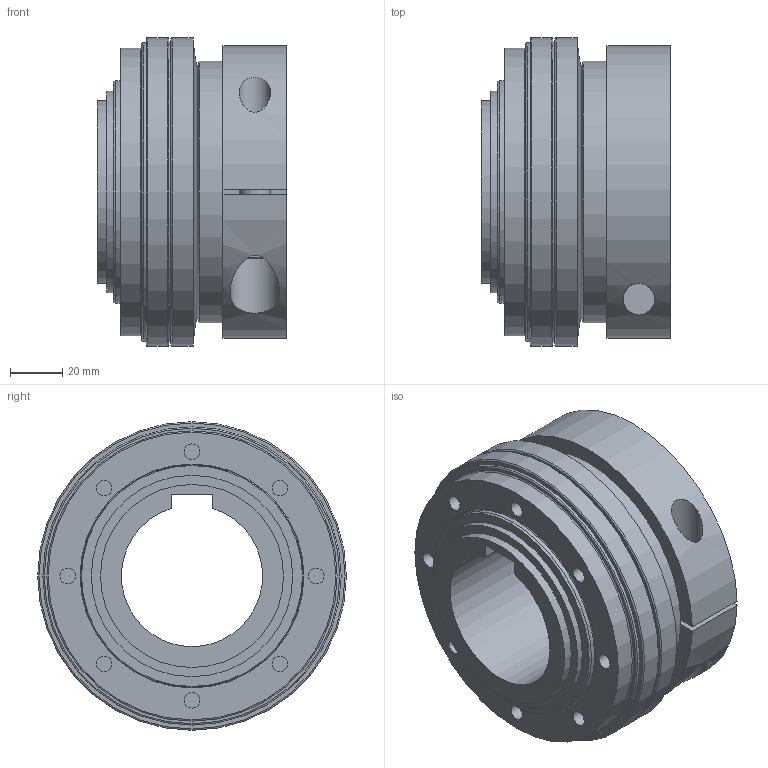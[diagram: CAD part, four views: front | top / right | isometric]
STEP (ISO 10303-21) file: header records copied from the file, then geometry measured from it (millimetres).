
FILE_DESCRIPTION(/* description */ ('STEP AP214'),/* implementation_level */ '2;1');
FILE_NAME(/* name */ 'C:\Diequa Files\DieQua Coupling\TA\STP\TA.300.WD.#.#.stp',/* time_stamp */ '2019-04-26T13:12:22-05:00',/* author */ ('DiequaCAD'),/* organization */ (''),/* preprocessor_version */ 'ST-DEVELOPER v18',/* originating_system */ 'Autodesk Inventor 2020',/* authorisation */ ' ');
FILE_SCHEMA (('AUTOMOTIVE_DESIGN { 1 0 10303 214 3 1 1 }'));
Length unit declared in the file: millimetre
Products named in the file (1): SLN_300_72_W_54_PFN_275_200_350_13
Bounding box: 72.3 x 118 x 118 mm (x, y, z)
Volume: 478789.2 mm3; surface area: 72360.4 mm2
Topology: 1 solids, 1 shells, 75 faces, 195 edges, 144 vertices
Faces by surface type: plane 38, cylinder 24, torus 8, cone 5
Full cylindrical faces by diameter (mm): 6 x8, 12 x2, 12.5 x1, 18 x1, 19 x1, 70 x1, 77 x1, 85 x1, 100 x1, 110 x1, 114 x2, 118 x2
Entity records: 2559 total; most frequent: CARTESIAN_POINT 492, DIRECTION 469, ORIENTED_EDGE 390, AXIS2_PLACEMENT_3D 201, EDGE_CURVE 195, VERTEX_POINT 144, CIRCLE 125, EDGE_LOOP 101
